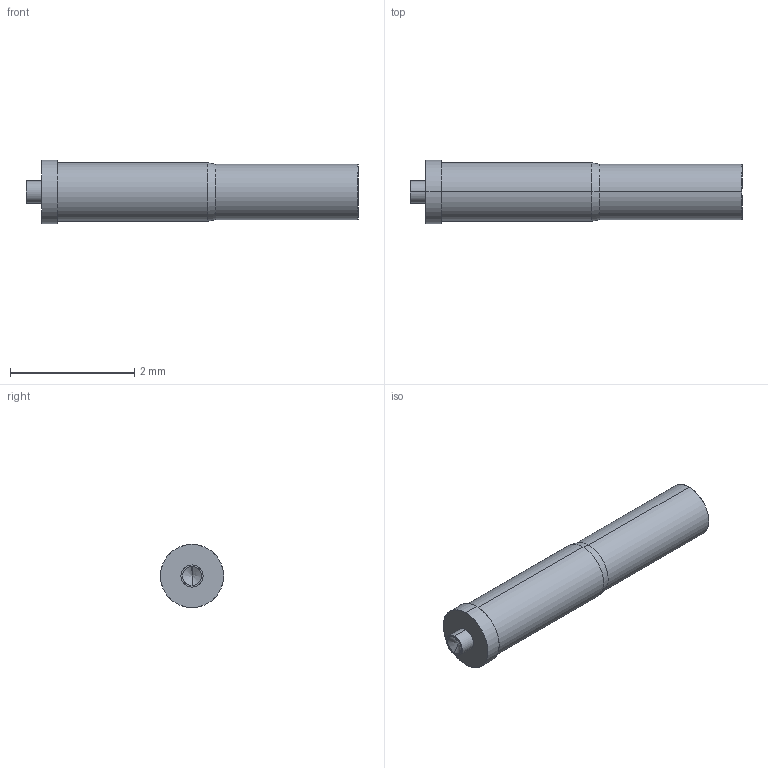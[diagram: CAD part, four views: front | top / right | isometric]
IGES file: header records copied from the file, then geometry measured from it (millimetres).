
Start section: SolidWorks IGES file using analytic representation for surfaces
Global section: file name: O:\PYLON\IGES FILES\A-S\A-S-V REC'D.IGS; native system: SolidWorks 2015; preprocessor: SolidWorks 2015; author: kgolden; date: 171023.151243; units: inch
Bounding box: 5.33 x 1.02 x 1.02 mm (x, y, z)
Surface area: 18.8 mm2 (no closed solid volume)
Topology: 0 solids, 0 shells, 19 faces, 200 edges, 198 vertices
Faces by surface type: revolution 14, bspline 5
